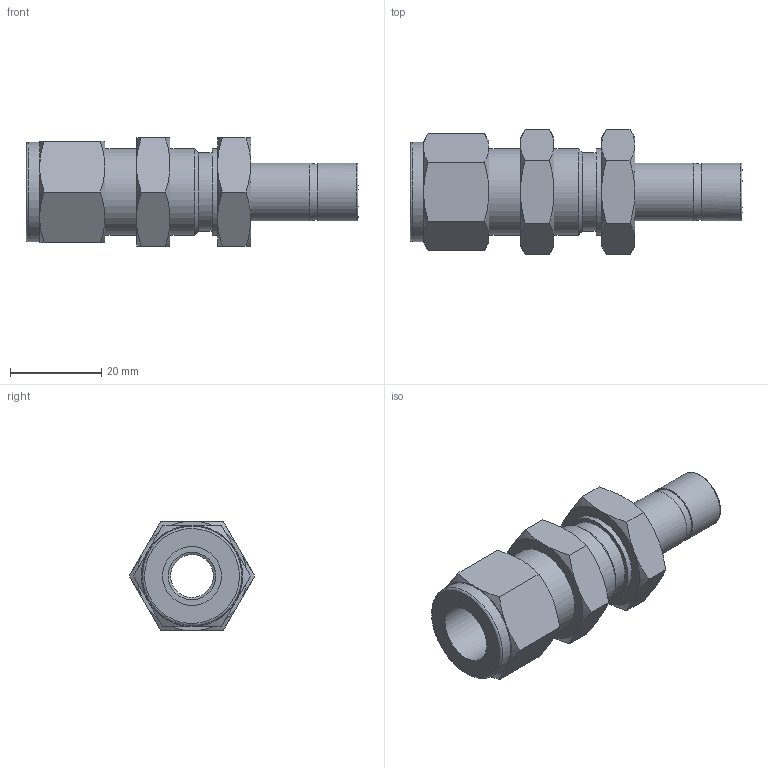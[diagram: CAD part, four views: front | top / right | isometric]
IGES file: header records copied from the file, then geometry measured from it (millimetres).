
Global section: file name: SRB-8-8; native system: Autodesk Inventor 2016; preprocessor: unknown; author: 배성훈,,11,0; organization: 20151112.230721; date: 20151113.104530; units: millimetre
Bounding box: 72.8 x 27.48 x 23.8 mm (x, y, z)
Volume: 15552 mm3; surface area: 8356.3 mm2
Topology: 1 solids, 1 shells, 81 faces, 227 edges, 158 vertices
Faces by surface type: bspline 81
